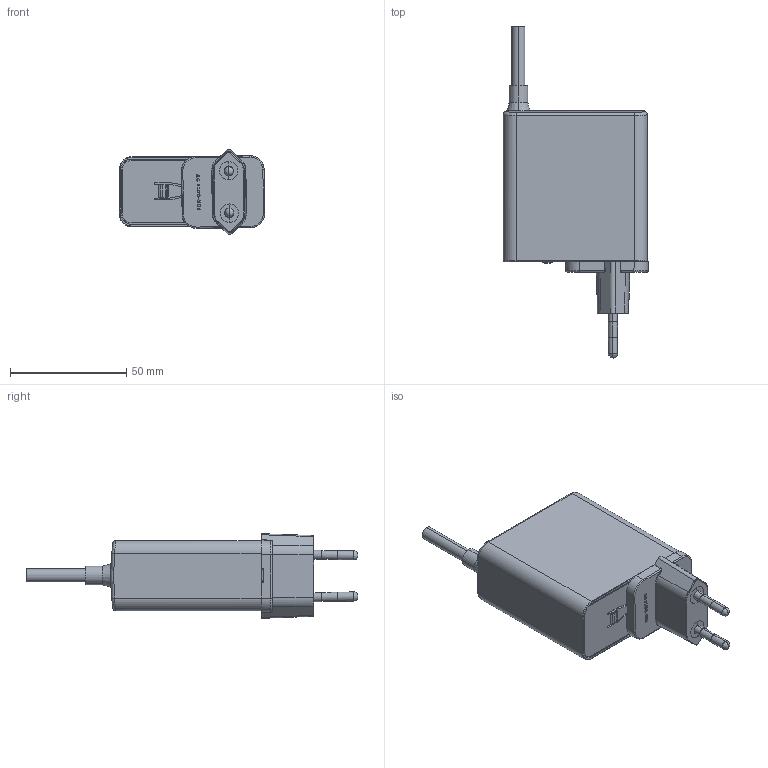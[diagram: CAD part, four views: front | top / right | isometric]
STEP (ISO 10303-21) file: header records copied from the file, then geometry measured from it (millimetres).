
FILE_DESCRIPTION(('Creo Elements/Direct Modeling STEP Export'),'2;1');
FILE_NAME('NGE30-45-65E.stp','2025-09-30T10:50:06',(''),(''),'Creo Elements/Direct Modeling STEP processor for AP214 (Solid Model)','Creo Elements/Direct Modeling 19.0G 27-Nov-2017 (C) Parametric Technology GmbH','');
FILE_SCHEMA(('AUTOMOTIVE_DESIGN { 1 0 10303 214 1 1 1 1 }'));
Length unit declared in the file: millimetre
Products named in the file (28): WW_1_1_PRT-6150_PRT.PRT; WW_1_1_PRT-6480_ASM.ASM; RPA_PRT_1_1_1_PRT_5_ASM.ASM; RPA_PRT_1_1_1_PRT-13900_ASM.ASM.1; case本體; RPA_PRT_1_1_1_PRT-13290_PRT.PRT; WS; RPA_PRT_1_1_1_PRT-13900_ASM.ASM; NGE90后盖; BOARD.PRT; 装配1; _X2_97627EC4_X0__1-19085-202710.PRT; _X2_97627EC4_X0__1-19085-207700.ASM; NGE100F.stp; ZHAOFAA4CA11JC19_5_PRT_P-280860.PRT; ZHAOFAA4CA11JC19_5_PRT_P-287090.ASM; ZHAOFAA4CA11JC19_4_PRT_P-311580.PRT; ZHAOFAA4CA11JC19_4_PRT_P-311910.ASM; ZHAOFAA4CA11JC19_3_PRT_P-392220.PRT; ZHAOFAA4CA11JC19_3_PRT_P-392740.ASM; ZHAOFAA4CA11JC19_2_PRT_P-405090.PRT; ZHAOFAA4CA11JC19_2_PRT_P-405420.ASM; ZHAOFAA4CA11JC19_1_PRT_P-417770.PRT; ZHAOFAA4CA11JC19_1_PRT_P-418100.ASM; EU.stp
Assembly tree (26 placements, depth 4):
  装配1
    BOARD.PRT
    NGE90后盖
    RPA_PRT_1_1_1_PRT-13900_ASM.ASM
      WW_1_1_PRT-6480_ASM.ASM
        WW_1_1_PRT-6150_PRT.PRT
      WS
      RPA_PRT_1_1_1_PRT_5_ASM.ASM
        RPA_PRT_1_1_1_PRT-13290_PRT.PRT
      RPA_PRT_1_1_1_PRT-13290_PRT.PRT
    case本體
    RPA_PRT_1_1_1_PRT-13900_ASM.ASM.1
      RPA_PRT_1_1_1_PRT_5_ASM.ASM
      WW_1_1_PRT-6480_ASM.ASM
        WW_1_1_PRT-6150_PRT.PRT
  NGE100F.stp
    _X2_97627EC4_X0__1-19085-207700.ASM
      _X2_97627EC4_X0__1-19085-202710.PRT
  EU.stp
    ZHAOFAA4CA11JC19_1_PRT_P-418100.ASM
      ZHAOFAA4CA11JC19_1_PRT_P-417770.PRT
    ZHAOFAA4CA11JC19_2_PRT_P-405420.ASM
      ZHAOFAA4CA11JC19_2_PRT_P-405090.PRT
    ZHAOFAA4CA11JC19_3_PRT_P-392740.ASM
      ZHAOFAA4CA11JC19_3_PRT_P-392220.PRT
    ZHAOFAA4CA11JC19_4_PRT_P-311910.ASM
      ZHAOFAA4CA11JC19_4_PRT_P-311580.PRT
    ZHAOFAA4CA11JC19_5_PRT_P-287090.ASM
      ZHAOFAA4CA11JC19_5_PRT_P-280860.PRT
Bounding box: 62.66 x 142.99 x 36.46 mm (x, y, z)
Volume: 44620.4 mm3; surface area: 55247 mm2
Topology: 14 solids, 16 shells, 1901 faces, 5658 edges, 3845 vertices
Faces by surface type: plane 1291, cylinder 440, bspline 72, cone 54, torus 30, extrusion 12, sphere 2
Entity records: 80695 total; most frequent: CARTESIAN_POINT 21012, ORIENTED_EDGE 11220, DIRECTION 9131, EDGE_CURVE 5610, VECTOR 3901, LINE 3889, VERTEX_POINT 3817, AXIS2_PLACEMENT_3D 2615
